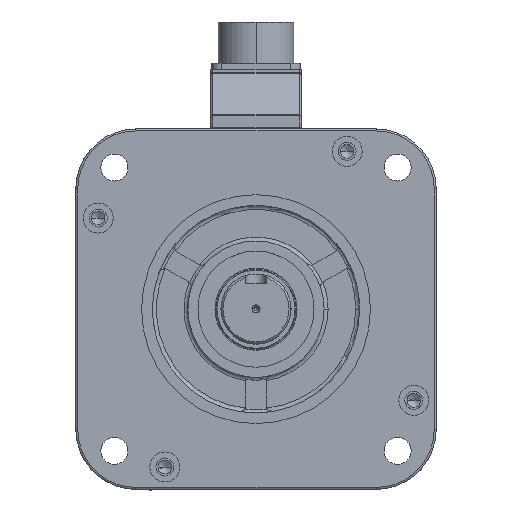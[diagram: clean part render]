
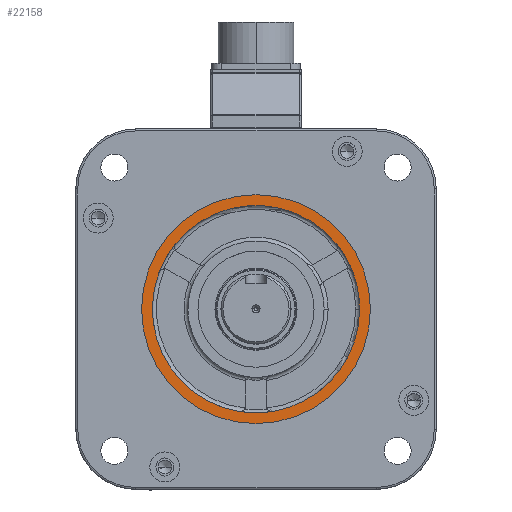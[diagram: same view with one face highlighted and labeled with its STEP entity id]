
A CAD part, top view. The second image highlights one B-rep face of the part: STEP entity #22158.
In plain terms, the highlighted planar face has unit normal (0, 0, 1).
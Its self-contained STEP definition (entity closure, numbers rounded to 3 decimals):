
#580 = VERTEX_POINT ( 'NONE', #3090 ) ;
#675 = CARTESIAN_POINT ( 'NONE',  ( 0., 0., 21. ) ) ;
#817 = EDGE_LOOP ( 'NONE', ( #46779, #18272 ) ) ;
#2058 = CARTESIAN_POINT ( 'NONE',  ( -39.963, 32.879, 21. ) ) ;
#2976 = CARTESIAN_POINT ( 'NONE',  ( 0., 0., 21. ) ) ;
#3090 = CARTESIAN_POINT ( 'NONE',  ( -57.15, 0., 21. ) ) ;
#3246 = AXIS2_PLACEMENT_3D ( 'NONE', #9880, #27551, #5095 ) ;
#3926 = VERTEX_POINT ( 'NONE', #6066 ) ;
#3941 = AXIS2_PLACEMENT_3D ( 'NONE', #32969, #55752, #5396 ) ;
#4368 = EDGE_CURVE ( 'NONE', #28943, #3926, #55630, .T. ) ;
#4545 = DIRECTION ( 'NONE',  ( 1., 0., 0. ) ) ;
#5095 = DIRECTION ( 'NONE',  ( 1., 0., 0. ) ) ;
#5396 = DIRECTION ( 'NONE',  ( 1., 0., 0. ) ) ;
#5416 = CIRCLE ( 'NONE', #46572, 57.15 ) ;
#5649 = CIRCLE ( 'NONE', #50615, 51.75 ) ;
#5727 = ORIENTED_EDGE ( 'NONE', *, *, #11595, .F. ) ;
#6066 = CARTESIAN_POINT ( 'NONE',  ( -8.492, -51.048, 21. ) ) ;
#6174 = DIRECTION ( 'NONE',  ( 0., 0., 1. ) ) ;
#7481 = CARTESIAN_POINT ( 'NONE',  ( 0., 0., 21. ) ) ;
#8661 = EDGE_LOOP ( 'NONE', ( #57907, #33922, #35124, #57775, #41035, #39368, #5727 ) ) ;
#9880 = CARTESIAN_POINT ( 'NONE',  ( 0., 0., 21. ) ) ;
#10567 = DIRECTION ( 'NONE',  ( 1., 0., 0. ) ) ;
#10676 = CARTESIAN_POINT ( 'NONE',  ( 0., 0., 21. ) ) ;
#10955 = VERTEX_POINT ( 'NONE', #27808 ) ;
#11595 = EDGE_CURVE ( 'NONE', #15605, #49872, #45775, .T. ) ;
#12786 = CIRCLE ( 'NONE', #3246, 57.15 ) ;
#13140 = FACE_OUTER_BOUND ( 'NONE', #817, .T. ) ;
#14920 = CARTESIAN_POINT ( 'NONE',  ( 39.963, 32.879, 21. ) ) ;
#15277 = CARTESIAN_POINT ( 'NONE',  ( 57.15, 0., 21. ) ) ;
#15605 = VERTEX_POINT ( 'NONE', #14920 ) ;
#15664 = CARTESIAN_POINT ( 'NONE',  ( -48.455, 18.17, 21. ) ) ;
#17920 = FACE_BOUND ( 'NONE', #8661, .T. ) ;
#18006 = CARTESIAN_POINT ( 'NONE',  ( 0., 0., 21. ) ) ;
#18272 = ORIENTED_EDGE ( 'NONE', *, *, #19206, .T. ) ;
#19206 = EDGE_CURVE ( 'NONE', #45523, #580, #12786, .T. ) ;
#19525 = DIRECTION ( 'NONE',  ( 1., 0., 0. ) ) ;
#19644 = AXIS2_PLACEMENT_3D ( 'NONE', #29117, #42916, #10567 ) ;
#19685 = AXIS2_PLACEMENT_3D ( 'NONE', #50009, #31413, #58691 ) ;
#20336 = CARTESIAN_POINT ( 'NONE',  ( 48.455, 18.17, 21. ) ) ;
#20972 = DIRECTION ( 'NONE',  ( 1., 0., 0. ) ) ;
#22158 = ADVANCED_FACE ( 'NONE', ( #17920, #13140 ), #40423, .T. ) ;
#23393 = DIRECTION ( 'NONE',  ( 0., 0., 1. ) ) ;
#23424 = DIRECTION ( 'NONE',  ( 0., 0., 1. ) ) ;
#24435 = DIRECTION ( 'NONE',  ( 1., 0., 0. ) ) ;
#27551 = DIRECTION ( 'NONE',  ( 0., 0., 1. ) ) ;
#27808 = CARTESIAN_POINT ( 'NONE',  ( 51.75, 0., 21. ) ) ;
#28943 = VERTEX_POINT ( 'NONE', #15664 ) ;
#29117 = CARTESIAN_POINT ( 'NONE',  ( 0., 0., 21. ) ) ;
#29956 = DIRECTION ( 'NONE',  ( 0., 0., 1. ) ) ;
#31413 = DIRECTION ( 'NONE',  ( 0., 0., 1. ) ) ;
#32100 = EDGE_CURVE ( 'NONE', #3926, #50313, #42177, .T. ) ;
#32407 = DIRECTION ( 'NONE',  ( 0., 0., 1. ) ) ;
#32969 = CARTESIAN_POINT ( 'NONE',  ( 0., 0., 21. ) ) ;
#33922 = ORIENTED_EDGE ( 'NONE', *, *, #48209, .F. ) ;
#33936 = EDGE_CURVE ( 'NONE', #49872, #28943, #55031, .T. ) ;
#34448 = EDGE_CURVE ( 'NONE', #41702, #15605, #36916, .T. ) ;
#34454 = DIRECTION ( 'NONE',  ( 1., 0., 0. ) ) ;
#34700 = AXIS2_PLACEMENT_3D ( 'NONE', #18006, #23393, #55174 ) ;
#35017 = AXIS2_PLACEMENT_3D ( 'NONE', #2976, #48523, #34454 ) ;
#35124 = ORIENTED_EDGE ( 'NONE', *, *, #54244, .F. ) ;
#35639 = CIRCLE ( 'NONE', #34700, 51.75 ) ;
#36915 = CARTESIAN_POINT ( 'NONE',  ( 0., 0., 21. ) ) ;
#36916 = CIRCLE ( 'NONE', #35017, 51.75 ) ;
#39368 = ORIENTED_EDGE ( 'NONE', *, *, #33936, .F. ) ;
#40423 = PLANE ( 'NONE',  #19685 ) ;
#41035 = ORIENTED_EDGE ( 'NONE', *, *, #4368, .F. ) ;
#41702 = VERTEX_POINT ( 'NONE', #20336 ) ;
#42177 = CIRCLE ( 'NONE', #50779, 51.75 ) ;
#42916 = DIRECTION ( 'NONE',  ( 0., 0., 1. ) ) ;
#43335 = CARTESIAN_POINT ( 'NONE',  ( 8.492, -51.048, 21. ) ) ;
#45523 = VERTEX_POINT ( 'NONE', #15277 ) ;
#45775 = CIRCLE ( 'NONE', #49631, 51.75 ) ;
#46572 = AXIS2_PLACEMENT_3D ( 'NONE', #7481, #29956, #20972 ) ;
#46779 = ORIENTED_EDGE ( 'NONE', *, *, #52346, .T. ) ;
#48209 = EDGE_CURVE ( 'NONE', #10955, #41702, #35639, .T. ) ;
#48523 = DIRECTION ( 'NONE',  ( 0., 0., 1. ) ) ;
#49631 = AXIS2_PLACEMENT_3D ( 'NONE', #36915, #32407, #4545 ) ;
#49872 = VERTEX_POINT ( 'NONE', #2058 ) ;
#50009 = CARTESIAN_POINT ( 'NONE',  ( 0., 0., 21. ) ) ;
#50313 = VERTEX_POINT ( 'NONE', #43335 ) ;
#50615 = AXIS2_PLACEMENT_3D ( 'NONE', #10676, #6174, #24435 ) ;
#50779 = AXIS2_PLACEMENT_3D ( 'NONE', #675, #23424, #19525 ) ;
#52346 = EDGE_CURVE ( 'NONE', #580, #45523, #5416, .T. ) ;
#54244 = EDGE_CURVE ( 'NONE', #50313, #10955, #5649, .T. ) ;
#55031 = CIRCLE ( 'NONE', #19644, 51.75 ) ;
#55174 = DIRECTION ( 'NONE',  ( 1., 0., 0. ) ) ;
#55630 = CIRCLE ( 'NONE', #3941, 51.75 ) ;
#55752 = DIRECTION ( 'NONE',  ( 0., 0., 1. ) ) ;
#57775 = ORIENTED_EDGE ( 'NONE', *, *, #32100, .F. ) ;
#57907 = ORIENTED_EDGE ( 'NONE', *, *, #34448, .F. ) ;
#58691 = DIRECTION ( 'NONE',  ( 1., 0., 0. ) ) ;
